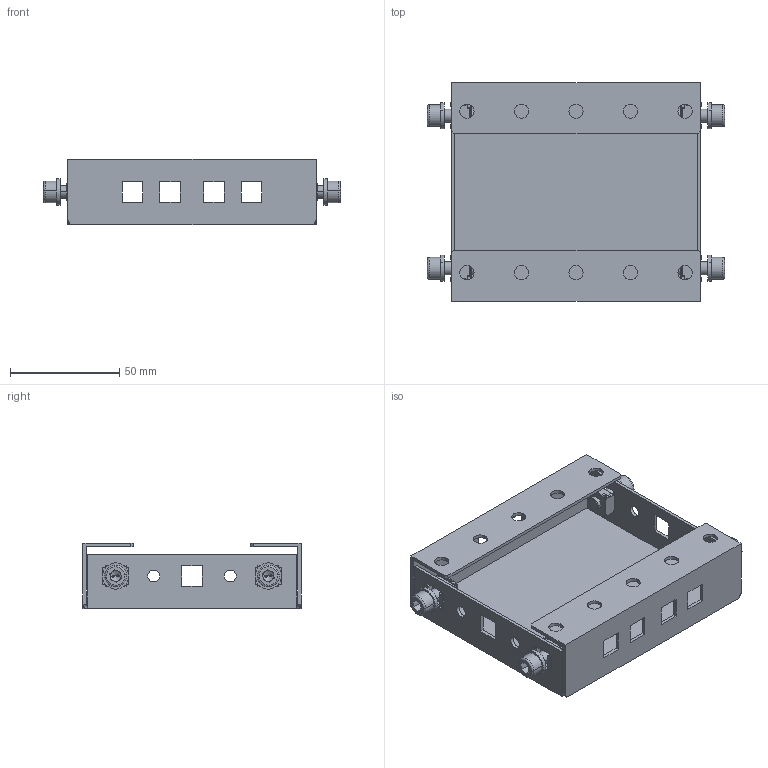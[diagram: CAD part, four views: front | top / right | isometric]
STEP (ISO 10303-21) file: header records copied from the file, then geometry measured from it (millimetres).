
FILE_DESCRIPTION(('Open CASCADE Model'),'2;1');
FILE_NAME('Open CASCADE Shape Model','2025-02-07T17:53:26',('Author'),( 'Open CASCADE'),'Open CASCADE STEP processor 7.8','Open CASCADE 7.8' ,'Unknown');
FILE_SCHEMA(('AUTOMOTIVE_DESIGN { 1 0 10303 214 1 1 1 1 }'));
Length unit declared in the file: millimetre
Products named in the file (5): Compound1; Solid1; Solid2; Solid3; Solid4
Assembly tree (13 placements, depth 2):
  Compound1
    Solid1
    Solid2  x4
    Solid3  x4
    Solid4  x4
Bounding box: 136.2 x 100 x 30 mm (x, y, z)
Volume: 44419.7 mm3; surface area: 61108.6 mm2
Topology: 13 solids, 13 shells, 696 faces, 1934 edges, 1256 vertices
Faces by surface type: plane 378, cylinder 254, cone 32, bspline 16, torus 16
Full cylindrical faces by diameter (mm): 5.5 x4, 6.5 x10
Entity records: 19838 total; most frequent: CARTESIAN_POINT 12984, ORIENTED_EDGE 1476, DIRECTION 1284, EDGE_CURVE 738, VERTEX_POINT 485, LINE 470, VECTOR 470, AXIS2_PLACEMENT_3D 407
